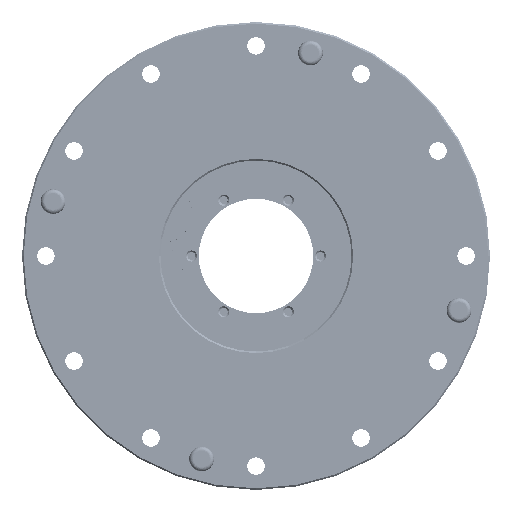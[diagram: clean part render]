
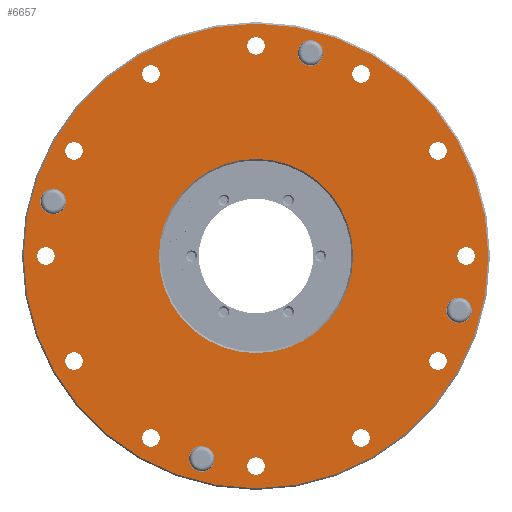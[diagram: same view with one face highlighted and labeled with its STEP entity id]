
A CAD part, front view. The second image highlights one B-rep face of the part: STEP entity #6657.
In plain terms, the highlighted planar face has unit normal (0, -1, 0).
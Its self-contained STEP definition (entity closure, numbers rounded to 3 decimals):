
#6177=PLANE('',#21395);
#6657=ADVANCED_FACE('',(#8217,#8218,#8219,#8220,#8221,#8222,#8223,#8224,
#8225,#8226,#8227,#8228,#8229,#8230,#8231,#8232,#8233,#8234),#6177,.F.);
#8217=FACE_BOUND('',#9385,.T.);
#8218=FACE_BOUND('',#9386,.T.);
#8219=FACE_BOUND('',#9387,.T.);
#8220=FACE_BOUND('',#9388,.T.);
#8221=FACE_BOUND('',#9389,.T.);
#8222=FACE_BOUND('',#9390,.T.);
#8223=FACE_BOUND('',#9391,.T.);
#8224=FACE_BOUND('',#9392,.T.);
#8225=FACE_BOUND('',#9393,.T.);
#8226=FACE_BOUND('',#9394,.T.);
#8227=FACE_BOUND('',#9395,.T.);
#8228=FACE_BOUND('',#9396,.T.);
#8229=FACE_BOUND('',#9397,.T.);
#8230=FACE_BOUND('',#9398,.T.);
#8231=FACE_BOUND('',#9399,.T.);
#8232=FACE_BOUND('',#9400,.T.);
#8233=FACE_BOUND('',#9401,.T.);
#8234=FACE_BOUND('',#9402,.T.);
#9385=EDGE_LOOP('',(#11211));
#9386=EDGE_LOOP('',(#11212));
#9387=EDGE_LOOP('',(#11213));
#9388=EDGE_LOOP('',(#11214));
#9389=EDGE_LOOP('',(#11215));
#9390=EDGE_LOOP('',(#11216));
#9391=EDGE_LOOP('',(#11217));
#9392=EDGE_LOOP('',(#11218));
#9393=EDGE_LOOP('',(#11219));
#9394=EDGE_LOOP('',(#11220));
#9395=EDGE_LOOP('',(#11221));
#9396=EDGE_LOOP('',(#11222));
#9397=EDGE_LOOP('',(#11223));
#9398=EDGE_LOOP('',(#11224));
#9399=EDGE_LOOP('',(#11225));
#9400=EDGE_LOOP('',(#11226));
#9401=EDGE_LOOP('',(#11227));
#9402=EDGE_LOOP('',(#11228));
#11211=ORIENTED_EDGE('',*,*,#18057,.T.);
#11212=ORIENTED_EDGE('',*,*,#18058,.T.);
#11213=ORIENTED_EDGE('',*,*,#18059,.F.);
#11214=ORIENTED_EDGE('',*,*,#18060,.F.);
#11215=ORIENTED_EDGE('',*,*,#18061,.F.);
#11216=ORIENTED_EDGE('',*,*,#18062,.F.);
#11217=ORIENTED_EDGE('',*,*,#18063,.F.);
#11218=ORIENTED_EDGE('',*,*,#18064,.F.);
#11219=ORIENTED_EDGE('',*,*,#18065,.F.);
#11220=ORIENTED_EDGE('',*,*,#18066,.F.);
#11221=ORIENTED_EDGE('',*,*,#18067,.F.);
#11222=ORIENTED_EDGE('',*,*,#18068,.F.);
#11223=ORIENTED_EDGE('',*,*,#18069,.F.);
#11224=ORIENTED_EDGE('',*,*,#18070,.F.);
#11225=ORIENTED_EDGE('',*,*,#18071,.F.);
#11226=ORIENTED_EDGE('',*,*,#18072,.F.);
#11227=ORIENTED_EDGE('',*,*,#18073,.F.);
#11228=ORIENTED_EDGE('',*,*,#18074,.F.);
#16170=VERTEX_POINT('',#27807);
#16171=VERTEX_POINT('',#27809);
#16172=VERTEX_POINT('',#27811);
#16173=VERTEX_POINT('',#27813);
#16174=VERTEX_POINT('',#27815);
#16175=VERTEX_POINT('',#27817);
#16176=VERTEX_POINT('',#27819);
#16177=VERTEX_POINT('',#27821);
#16178=VERTEX_POINT('',#27823);
#16179=VERTEX_POINT('',#27825);
#16180=VERTEX_POINT('',#27827);
#16181=VERTEX_POINT('',#27829);
#16182=VERTEX_POINT('',#27831);
#16183=VERTEX_POINT('',#27833);
#16184=VERTEX_POINT('',#27835);
#16185=VERTEX_POINT('',#27837);
#16186=VERTEX_POINT('',#27839);
#16187=VERTEX_POINT('',#27841);
#18057=EDGE_CURVE('',#16170,#16170,#20541,.T.);
#18058=EDGE_CURVE('',#16171,#16171,#20542,.T.);
#18059=EDGE_CURVE('',#16172,#16172,#20543,.T.);
#18060=EDGE_CURVE('',#16173,#16173,#20544,.T.);
#18061=EDGE_CURVE('',#16174,#16174,#20545,.T.);
#18062=EDGE_CURVE('',#16175,#16175,#20546,.T.);
#18063=EDGE_CURVE('',#16176,#16176,#20547,.T.);
#18064=EDGE_CURVE('',#16177,#16177,#20548,.T.);
#18065=EDGE_CURVE('',#16178,#16178,#20549,.T.);
#18066=EDGE_CURVE('',#16179,#16179,#20550,.T.);
#18067=EDGE_CURVE('',#16180,#16180,#20551,.T.);
#18068=EDGE_CURVE('',#16181,#16181,#20552,.T.);
#18069=EDGE_CURVE('',#16182,#16182,#20553,.T.);
#18070=EDGE_CURVE('',#16183,#16183,#20554,.T.);
#18071=EDGE_CURVE('',#16184,#16184,#20555,.T.);
#18072=EDGE_CURVE('',#16185,#16185,#20556,.T.);
#18073=EDGE_CURVE('',#16186,#16186,#20557,.T.);
#18074=EDGE_CURVE('',#16187,#16187,#20558,.T.);
#20541=CIRCLE('',#21377,30.5);
#20542=CIRCLE('',#21378,73.);
#20543=CIRCLE('',#21379,4.);
#20544=CIRCLE('',#21380,4.);
#20545=CIRCLE('',#21381,4.);
#20546=CIRCLE('',#21382,4.);
#20547=CIRCLE('',#21383,2.75);
#20548=CIRCLE('',#21384,2.75);
#20549=CIRCLE('',#21385,2.75);
#20550=CIRCLE('',#21386,2.75);
#20551=CIRCLE('',#21387,2.75);
#20552=CIRCLE('',#21388,2.75);
#20553=CIRCLE('',#21389,2.75);
#20554=CIRCLE('',#21390,2.75);
#20555=CIRCLE('',#21391,2.75);
#20556=CIRCLE('',#21392,2.75);
#20557=CIRCLE('',#21393,2.75);
#20558=CIRCLE('',#21394,2.75);
#21377=AXIS2_PLACEMENT_3D('',#27806,#23276,#23277);
#21378=AXIS2_PLACEMENT_3D('',#27808,#23278,#23279);
#21379=AXIS2_PLACEMENT_3D('',#27810,#23280,#23281);
#21380=AXIS2_PLACEMENT_3D('',#27812,#23282,#23283);
#21381=AXIS2_PLACEMENT_3D('',#27814,#23284,#23285);
#21382=AXIS2_PLACEMENT_3D('',#27816,#23286,#23287);
#21383=AXIS2_PLACEMENT_3D('',#27818,#23288,#23289);
#21384=AXIS2_PLACEMENT_3D('',#27820,#23290,#23291);
#21385=AXIS2_PLACEMENT_3D('',#27822,#23292,#23293);
#21386=AXIS2_PLACEMENT_3D('',#27824,#23294,#23295);
#21387=AXIS2_PLACEMENT_3D('',#27826,#23296,#23297);
#21388=AXIS2_PLACEMENT_3D('',#27828,#23298,#23299);
#21389=AXIS2_PLACEMENT_3D('',#27830,#23300,#23301);
#21390=AXIS2_PLACEMENT_3D('',#27832,#23302,#23303);
#21391=AXIS2_PLACEMENT_3D('',#27834,#23304,#23305);
#21392=AXIS2_PLACEMENT_3D('',#27836,#23306,#23307);
#21393=AXIS2_PLACEMENT_3D('',#27838,#23308,#23309);
#21394=AXIS2_PLACEMENT_3D('',#27840,#23310,#23311);
#21395=AXIS2_PLACEMENT_3D('',#27842,#23312,#23313);
#23276=DIRECTION('',(0.,1.,0.));
#23277=DIRECTION('',(0.,0.,1.));
#23278=DIRECTION('',(0.,-1.,0.));
#23279=DIRECTION('',(0.,0.,1.));
#23280=DIRECTION('',(0.,-1.,0.));
#23281=DIRECTION('',(0.,0.,-1.));
#23282=DIRECTION('',(0.,-1.,0.));
#23283=DIRECTION('',(0.,0.,-1.));
#23284=DIRECTION('',(0.,-1.,0.));
#23285=DIRECTION('',(0.,0.,-1.));
#23286=DIRECTION('',(0.,-1.,0.));
#23287=DIRECTION('',(0.,0.,-1.));
#23288=DIRECTION('',(0.,-1.,0.));
#23289=DIRECTION('',(0.,0.,-1.));
#23290=DIRECTION('',(0.,-1.,0.));
#23291=DIRECTION('',(0.,0.,-1.));
#23292=DIRECTION('',(0.,-1.,0.));
#23293=DIRECTION('',(0.,0.,-1.));
#23294=DIRECTION('',(0.,-1.,0.));
#23295=DIRECTION('',(0.,0.,-1.));
#23296=DIRECTION('',(0.,-1.,0.));
#23297=DIRECTION('',(0.,0.,-1.));
#23298=DIRECTION('',(0.,-1.,0.));
#23299=DIRECTION('',(0.,0.,-1.));
#23300=DIRECTION('',(0.,-1.,0.));
#23301=DIRECTION('',(0.,0.,-1.));
#23302=DIRECTION('',(0.,-1.,0.));
#23303=DIRECTION('',(0.,0.,-1.));
#23304=DIRECTION('',(0.,-1.,0.));
#23305=DIRECTION('',(0.,0.,-1.));
#23306=DIRECTION('',(0.,-1.,0.));
#23307=DIRECTION('',(0.,0.,-1.));
#23308=DIRECTION('',(0.,-1.,0.));
#23309=DIRECTION('',(0.,0.,-1.));
#23310=DIRECTION('',(0.,-1.,0.));
#23311=DIRECTION('',(0.,0.,-1.));
#23312=DIRECTION('',(0.,1.,0.));
#23313=DIRECTION('',(0.,0.,1.));
#27806=CARTESIAN_POINT('',(0.,0.,0.));
#27807=CARTESIAN_POINT('',(0.,0.,30.5));
#27808=CARTESIAN_POINT('',(0.,0.,0.));
#27809=CARTESIAN_POINT('',(0.,0.,73.));
#27810=CARTESIAN_POINT('',(-63.751,0.,17.082));
#27811=CARTESIAN_POINT('',(-63.751,0.,13.082));
#27812=CARTESIAN_POINT('',(-17.082,0.,-63.751));
#27813=CARTESIAN_POINT('',(-17.082,0.,-67.751));
#27814=CARTESIAN_POINT('',(63.751,0.,-17.082));
#27815=CARTESIAN_POINT('',(63.751,0.,-21.082));
#27816=CARTESIAN_POINT('',(17.082,0.,63.751));
#27817=CARTESIAN_POINT('',(17.082,0.,59.751));
#27818=CARTESIAN_POINT('',(-33.,0.,57.158));
#27819=CARTESIAN_POINT('',(-33.,0.,54.408));
#27820=CARTESIAN_POINT('',(-57.158,0.,33.));
#27821=CARTESIAN_POINT('',(-57.158,0.,30.25));
#27822=CARTESIAN_POINT('',(-66.,0.,0.));
#27823=CARTESIAN_POINT('',(-66.,0.,-2.75));
#27824=CARTESIAN_POINT('',(-57.158,0.,-33.));
#27825=CARTESIAN_POINT('',(-57.158,0.,-35.75));
#27826=CARTESIAN_POINT('',(-33.,0.,-57.158));
#27827=CARTESIAN_POINT('',(-33.,0.,-59.908));
#27828=CARTESIAN_POINT('',(0.,0.,-66.));
#27829=CARTESIAN_POINT('',(0.,0.,-68.75));
#27830=CARTESIAN_POINT('',(33.,0.,-57.158));
#27831=CARTESIAN_POINT('',(33.,0.,-59.908));
#27832=CARTESIAN_POINT('',(57.158,0.,-33.));
#27833=CARTESIAN_POINT('',(57.158,0.,-35.75));
#27834=CARTESIAN_POINT('',(66.,0.,0.));
#27835=CARTESIAN_POINT('',(66.,0.,-2.75));
#27836=CARTESIAN_POINT('',(57.158,0.,33.));
#27837=CARTESIAN_POINT('',(57.158,0.,30.25));
#27838=CARTESIAN_POINT('',(33.,0.,57.158));
#27839=CARTESIAN_POINT('',(33.,0.,54.408));
#27840=CARTESIAN_POINT('',(0.,0.,66.));
#27841=CARTESIAN_POINT('',(0.,0.,63.25));
#27842=CARTESIAN_POINT('',(30.,0.,0.));
